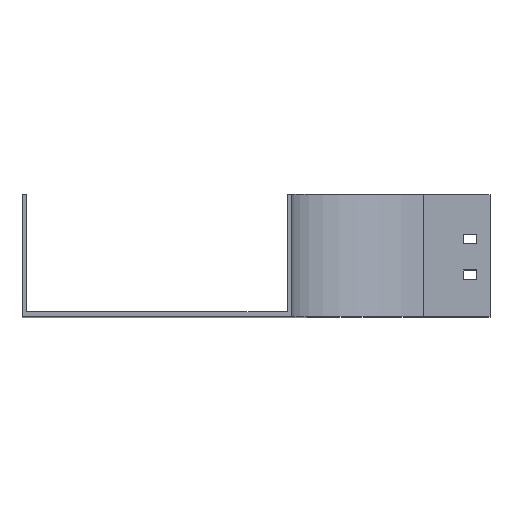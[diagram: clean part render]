
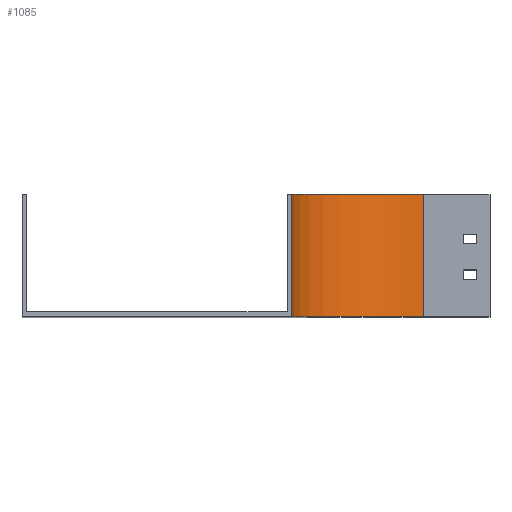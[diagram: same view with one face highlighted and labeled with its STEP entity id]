
A CAD part, top view. The second image highlights one B-rep face of the part: STEP entity #1085.
In plain terms, the highlighted cylindrical face has radius 100 mm (diameter 200 mm), a partial arc.
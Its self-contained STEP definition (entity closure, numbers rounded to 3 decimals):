
#134 = CARTESIAN_POINT ( 'NONE',  ( -100., 92.5, 0. ) ) ;
#170 = DIRECTION ( 'NONE',  ( 0., -1., 0. ) ) ;
#194 = CARTESIAN_POINT ( 'NONE',  ( 0., 92.5, -100. ) ) ;
#202 = VECTOR ( 'NONE', #1290, 1000. ) ;
#228 = EDGE_CURVE ( 'NONE', #1711, #2650, #1990, .T. ) ;
#380 = DIRECTION ( 'NONE',  ( 0., 0., -1. ) ) ;
#444 = CARTESIAN_POINT ( 'NONE',  ( 0., 0., 0. ) ) ;
#711 = CARTESIAN_POINT ( 'NONE',  ( 0., 0., -100. ) ) ;
#768 = ORIENTED_EDGE ( 'NONE', *, *, #801, .T. ) ;
#801 = EDGE_CURVE ( 'NONE', #1687, #1119, #858, .T. ) ;
#811 = AXIS2_PLACEMENT_3D ( 'NONE', #2142, #1108, #1938 ) ;
#817 = CYLINDRICAL_SURFACE ( 'NONE', #2469, 100. ) ;
#858 = CIRCLE ( 'NONE', #2390, 100. ) ;
#1030 = FACE_OUTER_BOUND ( 'NONE', #1953, .T. ) ;
#1085 = ADVANCED_FACE ( 'NONE', ( #1030 ), #817, .F. ) ;
#1108 = DIRECTION ( 'NONE',  ( 0., -1., 0. ) ) ;
#1119 = VERTEX_POINT ( 'NONE', #711 ) ;
#1207 = ORIENTED_EDGE ( 'NONE', *, *, #1426, .T. ) ;
#1260 = DIRECTION ( 'NONE',  ( 0., 0., -1. ) ) ;
#1290 = DIRECTION ( 'NONE',  ( 0., -1., 0. ) ) ;
#1426 = EDGE_CURVE ( 'NONE', #1711, #1687, #1671, .T. ) ;
#1523 = CARTESIAN_POINT ( 'NONE',  ( 0., 92.5, -100. ) ) ;
#1652 = CARTESIAN_POINT ( 'NONE',  ( 0., 92.5, 0. ) ) ;
#1671 = LINE ( 'NONE', #134, #2422 ) ;
#1687 = VERTEX_POINT ( 'NONE', #2554 ) ;
#1711 = VERTEX_POINT ( 'NONE', #2226 ) ;
#1919 = EDGE_CURVE ( 'NONE', #2650, #1119, #2138, .T. ) ;
#1929 = ORIENTED_EDGE ( 'NONE', *, *, #1919, .F. ) ;
#1938 = DIRECTION ( 'NONE',  ( 0., 0., -1. ) ) ;
#1953 = EDGE_LOOP ( 'NONE', ( #768, #1929, #2037, #1207 ) ) ;
#1990 = CIRCLE ( 'NONE', #811, 100. ) ;
#2037 = ORIENTED_EDGE ( 'NONE', *, *, #228, .F. ) ;
#2074 = DIRECTION ( 'NONE',  ( 0., -1., 0. ) ) ;
#2138 = LINE ( 'NONE', #1523, #202 ) ;
#2142 = CARTESIAN_POINT ( 'NONE',  ( 0., 92.5, 0. ) ) ;
#2226 = CARTESIAN_POINT ( 'NONE',  ( -100., 92.5, 0. ) ) ;
#2390 = AXIS2_PLACEMENT_3D ( 'NONE', #444, #2074, #1260 ) ;
#2422 = VECTOR ( 'NONE', #170, 1000. ) ;
#2469 = AXIS2_PLACEMENT_3D ( 'NONE', #1652, #2495, #380 ) ;
#2495 = DIRECTION ( 'NONE',  ( 0., -1., 0. ) ) ;
#2554 = CARTESIAN_POINT ( 'NONE',  ( -100., 0., 0. ) ) ;
#2650 = VERTEX_POINT ( 'NONE', #194 ) ;
